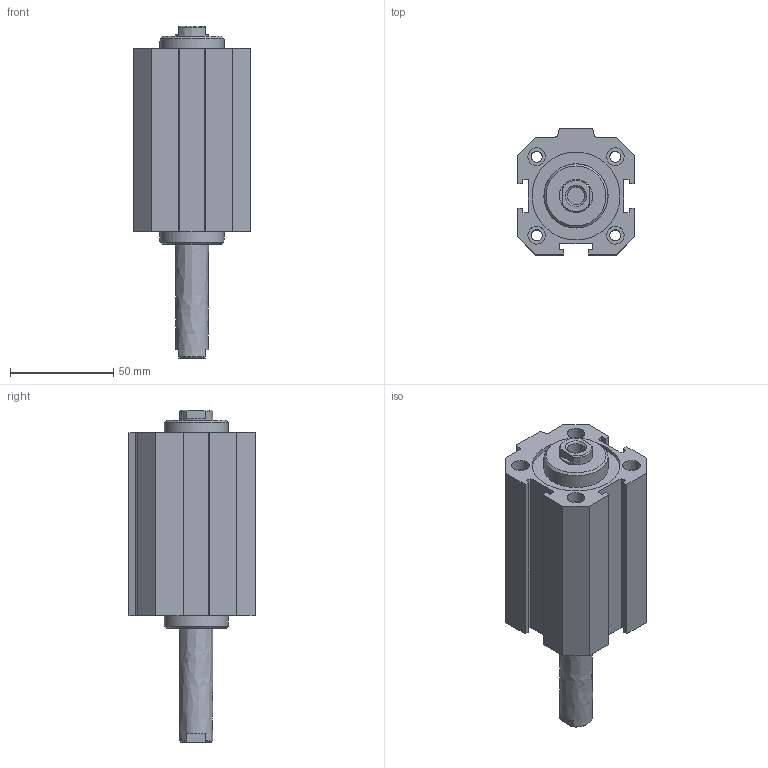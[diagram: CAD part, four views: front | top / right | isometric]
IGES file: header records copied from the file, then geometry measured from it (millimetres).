
Global section: file name: 1514_40_0050; native system: Autodesk Inventor 2014; preprocessor: unknown; author: A. Manieri; date: 20160824.120003; units: millimetre
Bounding box: 57 x 61 x 160.5 mm (x, y, z)
Volume: 212009.3 mm3; surface area: 62305.8 mm2
Topology: 2 solids, 2 shells, 130 faces, 339 edges, 233 vertices
Faces by surface type: bspline 130
